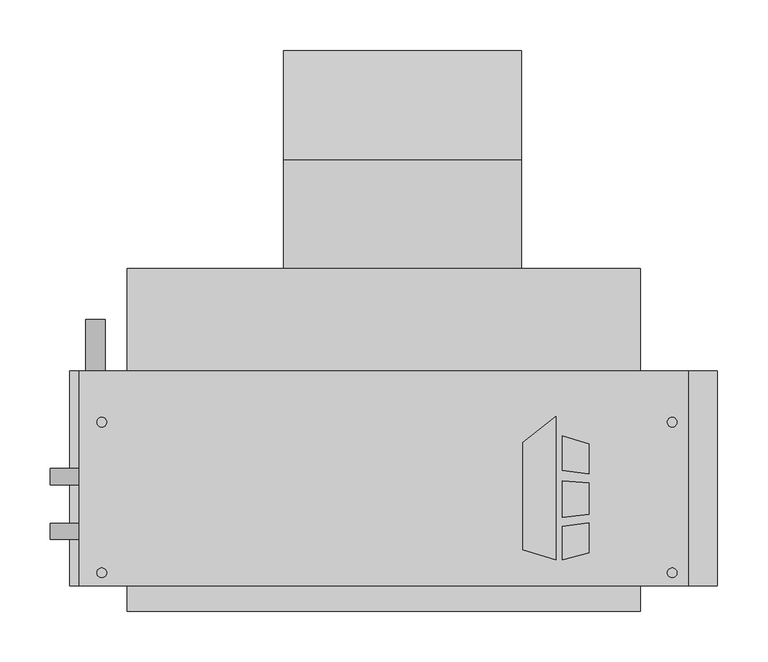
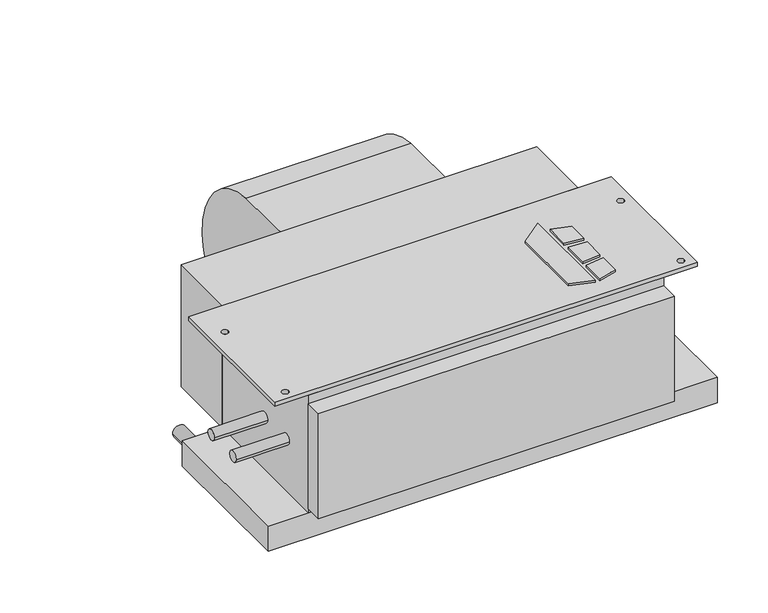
"""IFC4 building model written with IfcOpenShell, lengths in millimetres: proxy geometry, Concealed_Horizontal_Fan_Coil_Unit_-_CHY_-_IEC_-_2-Pipe_Cool-EHeat_LH_2022 : Size 03 - 277v/60Hz/1Ph - 4 Row 3.0kW."""

from ifc_helpers import new_model, si_unit, point, frame, frame_2d, origin, origin_with_axes, place, context, project, spatial, polyline, circle_curve, trimmed, segment, composite_curve, outline, extrude, source, transform, mapped, element, save


def mechanical_equipment_e5b27044(model_context):
    return source(origin(), model_context, "Body", "SweptSolid", [
        extrude(outline(polyline([(290.2019761, -202.5703476), (322.7602728, -177.1330184), (322.7602728, -319.0875), (290.2019761, -308.8679201), (290.2019761, -202.5703476)])), origin_with_axes(), (0.0, 0.0, 1.0), 3.175),
        extrude(outline(polyline([(329.5186058, -230.442352), (329.5186058, -195.9624379), (355.6, -204.1490115), (355.6, -233.6447446), (329.5186058, -230.442352)])), origin_with_axes(), (0.0, 0.0, 1.0), 3.175),
        extrude(outline(polyline([(355.6, -312.0990115), (329.5186058, -319.0875), (329.5186058, -285.8661996), (355.6, -282.3243564), (355.6, -312.0990115)])), origin_with_axes(), (0.0, 0.0, 1.0), 3.175),
        extrude(outline(polyline([(355.6, -242.7263277), (355.6, -273.976483), (329.5186058, -276.717748), (329.5186058, -240.8600378), (355.6, -242.7263277)])), origin_with_axes(), (0.0, 0.0, 1.0), 3.175),
        extrude(outline(composite_curve([segment(trimmed(circle_curve(frame_2d((68.401169, -136.0299844)), 117.3559541), [point((77.7875, -19.05))], [point((185.7375, -138.176))], False, "CARTESIAN"), True, "CONTINUOUS"), segment(trimmed(circle_curve(frame_2d((90.0022663, -136.4250563)), 95.7512443), [point((185.7375, -138.176))], [point((77.7875, -231.394))], False, "CARTESIAN"), True, "CONTINUOUS"), segment(trimmed(circle_curve(frame_2d((89.9711869, -136.6666968)), 95.5076133), [point((77.7875, -231.394))], [point((-5.5245, -138.176))], False, "CARTESIAN"), True, "CONTINUOUS"), segment(trimmed(circle_curve(frame_2d((-24.6059828, -138.4775816)), 19.0838659), [point((-5.5245, -138.176))], [point((-17.7963373, -120.65))], True, "CARTESIAN"), True, "CONTINUOUS"), segment(polyline([(-17.7963373, -120.65), (-30.1625, -120.65), (-30.1625, -19.05), (77.7875, -19.05)]), True, "CONTINUOUS")], self_intersect=False)), frame((53.213, 0.0, 0.0), z_axis=(1.0, 0.0, 0.0), x_axis=(0.0, 1.0, 0.0)), (0.0, 0.0, 1.0), 235.712),
        extrude(outline(polyline([(454.025, -131.7625), (454.025, -344.4875), (-149.225, -344.4875), (-149.225, -131.7625), (454.025, -131.7625)]), holes=[composite_curve([segment(trimmed(circle_curve(frame_2d((-127.0, -182.5625)), 4.7625), [point((-131.7625, -182.5625))], [point((-122.2375, -182.5625))], True, "CARTESIAN"), True, "CONTINUOUS"), segment(trimmed(circle_curve(frame_2d((-127.0, -182.5625)), 4.7625), [point((-122.2375, -182.5625))], [point((-131.7625, -182.5625))], True, "CARTESIAN"), True, "CONTINUOUS")], self_intersect=False), composite_curve([segment(trimmed(circle_curve(frame_2d((-127.0, -331.7875)), 4.7625), [point((-131.7625, -331.7875))], [point((-122.2375, -331.7875))], True, "CARTESIAN"), True, "CONTINUOUS"), segment(trimmed(circle_curve(frame_2d((-127.0, -331.7875)), 4.7625), [point((-122.2375, -331.7875))], [point((-131.7625, -331.7875))], True, "CARTESIAN"), True, "CONTINUOUS")], self_intersect=False), composite_curve([segment(trimmed(circle_curve(frame_2d((438.15, -182.5625)), 4.7625), [point((433.3875, -182.5625))], [point((442.9125, -182.5625))], True, "CARTESIAN"), True, "CONTINUOUS"), segment(trimmed(circle_curve(frame_2d((438.15, -182.5625)), 4.7625), [point((442.9125, -182.5625))], [point((433.3875, -182.5625))], True, "CARTESIAN"), True, "CONTINUOUS")], self_intersect=False), composite_curve([segment(trimmed(circle_curve(frame_2d((438.15, -331.7875)), 4.7625), [point((433.3875, -331.7875))], [point((442.9125, -331.7875))], True, "CARTESIAN"), True, "CONTINUOUS"), segment(trimmed(circle_curve(frame_2d((438.15, -331.7875)), 4.7625), [point((442.9125, -331.7875))], [point((433.3875, -331.7875))], True, "CARTESIAN"), True, "CONTINUOUS")], self_intersect=False)]), frame((0.0, 0.0, -6.35), z_axis=(0.0, 0.0, 1.0), x_axis=(1.0, 0.0, 0.0)), (0.0, 0.0, 1.0), 6.35),
        extrude(outline(polyline([(-101.6, -30.1625), (406.4, -30.1625), (406.4, -131.7625), (-101.6, -131.7625), (-101.6, -30.1625)])), frame((0.0, 0.0, -184.15), z_axis=(0.0, 0.0, 1.0), x_axis=(1.0, 0.0, 0.0)), (0.0, 0.0, 1.0), 184.15),
        extrude(outline(composite_curve([segment(trimmed(circle_curve(frame_2d((-209.55, -133.35)), 9.525), [point((-209.55, -142.875))], [point((-209.55, -123.825))], False, "CARTESIAN"), True, "CONTINUOUS"), segment(trimmed(circle_curve(frame_2d((-209.55, -133.35)), 9.525), [point((-209.55, -123.825))], [point((-209.55, -142.875))], False, "CARTESIAN"), True, "CONTINUOUS")], self_intersect=False)), frame((0.0, -131.7625, 0.0), z_axis=(0.0, 1.0, 0.0), x_axis=(0.0, 0.0, 1.0)), (0.0, 0.0, 1.0), 50.8),
        extrude(outline(polyline([(406.4, -369.8875), (-101.6, -369.8875), (-101.6, -344.4875), (406.4, -344.4875), (406.4, -369.8875)])), frame((0.0, 0.0, -177.8), z_axis=(0.0, 0.0, 1.0), x_axis=(1.0, 0.0, 0.0)), (0.0, 0.0, 1.0), 158.75),
        extrude(outline(polyline([(482.6, -131.7625), (482.6, -344.4875), (-158.75, -344.4875), (-158.75, -131.7625), (482.6, -131.7625)])), frame((0.0, 0.0, -222.25), z_axis=(0.0, 0.0, 1.0), x_axis=(1.0, 0.0, 0.0)), (0.0, 0.0, 1.0), 38.1),
        extrude(outline(composite_curve([segment(trimmed(circle_curve(frame_2d((-290.5125, -104.775)), 7.9375), [point((-282.575, -104.775))], [point((-298.45, -104.775))], False, "CARTESIAN"), True, "CONTINUOUS"), segment(trimmed(circle_curve(frame_2d((-290.5125, -104.775)), 7.9375), [point((-298.45, -104.775))], [point((-282.575, -104.775))], False, "CARTESIAN"), True, "CONTINUOUS")], self_intersect=False)), frame((-177.8, 0.0, 0.0), z_axis=(1.0, 0.0, 0.0), x_axis=(0.0, 1.0, 0.0)), (0.0, 0.0, 1.0), 76.2),
        extrude(outline(composite_curve([segment(trimmed(circle_curve(frame_2d((-236.5375, -104.775)), 7.9375), [point((-228.6, -104.775))], [point((-244.475, -104.775))], False, "CARTESIAN"), True, "CONTINUOUS"), segment(trimmed(circle_curve(frame_2d((-236.5375, -104.775)), 7.9375), [point((-244.475, -104.775))], [point((-228.6, -104.775))], False, "CARTESIAN"), True, "CONTINUOUS")], self_intersect=False)), frame((-177.8, 0.0, 0.0), z_axis=(1.0, 0.0, 0.0), x_axis=(0.0, 1.0, 0.0)), (0.0, 0.0, 1.0), 76.2),
        extrude(outline(polyline([(406.4, -344.4875), (-101.6, -344.4875), (-101.6, -131.7625), (406.4, -131.7625), (406.4, -344.4875)])), frame((0.0, 0.0, -184.15), z_axis=(0.0, 0.0, 1.0), x_axis=(1.0, 0.0, 0.0)), (0.0, 0.0, 1.0), 177.8),
    ])


if __name__ == "__main__":
    model = new_model("IFC4")
    model_context = context("Model", 3, world=origin())
    ifc_project = project(units=[si_unit("LENGTHUNIT", "METRE", prefix="MILLI")], contexts=[model_context])
    site = spatial("IfcSite", under=ifc_project)
    building = spatial("IfcBuilding", under=site)
    placement = place(None, origin())
    mechanical_equipment_shape = mechanical_equipment_e5b27044(model_context)
    element("IfcBuildingElementProxy", 1, Name="Concealed_Horizontal_Fan_Coil_Unit_-_CHY_-_IEC_-_2-Pipe_Cool-EHeat_LH_2022 : Size 03 - 277v/60Hz/1Ph - 4 Row 3.0kW", ObjectType="Concealed_Horizontal_Fan_Coil_Unit_-_CHY_-_IEC_-_2-Pipe_Cool-EHeat_LH_2022 : Size 03 - 277v/60Hz/1Ph - 4 Row 3.0kW", at=placement, inside=building, context=model_context, shape_type="MappedRepresentation", body=[
        mapped(mechanical_equipment_shape, transform((0.0, 0.0, 0.0), x_axis=(1.0, 0.0, 0.0), y_axis=(0.0, 1.0, 0.0), z_axis=(0.0, 0.0, 1.0))),
    ])
    save(model, "model.ifc")
